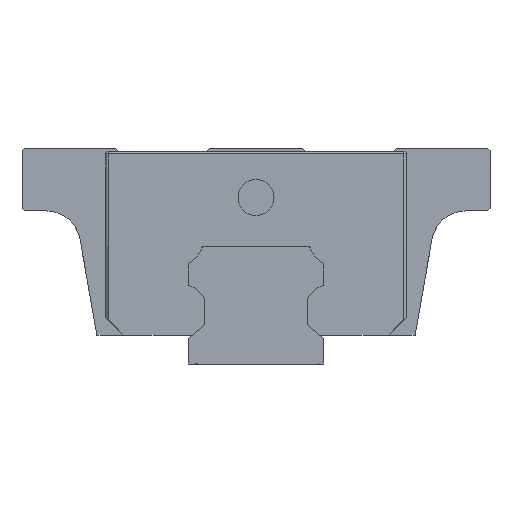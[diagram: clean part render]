
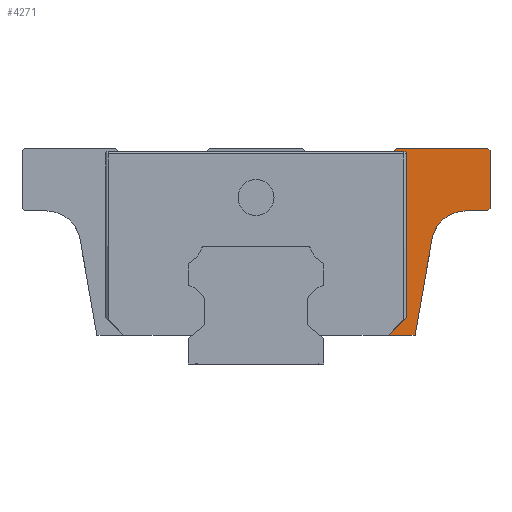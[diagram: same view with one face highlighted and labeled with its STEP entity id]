
A CAD part, left-side view. The second image highlights one B-rep face of the part: STEP entity #4271.
In plain terms, the highlighted planar face has unit normal (-1, 0, 0).
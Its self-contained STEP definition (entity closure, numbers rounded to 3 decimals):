
#23 = LINE ( 'NONE', #2007, #6015 ) ;
#62 = CARTESIAN_POINT ( 'NONE',  ( -11.45, -26., 24. ) ) ;
#106 = LINE ( 'NONE', #1663, #5261 ) ;
#122 = DIRECTION ( 'NONE',  ( 0., 0., 1. ) ) ;
#186 = CARTESIAN_POINT ( 'NONE',  ( -11.45, -26., 23.74 ) ) ;
#200 = VERTEX_POINT ( 'NONE', #186 ) ;
#233 = DIRECTION ( 'NONE',  ( 0., -1., 0. ) ) ;
#315 = CIRCLE ( 'NONE', #4414, 3.75 ) ;
#356 = EDGE_CURVE ( 'NONE', #5013, #2632, #5771, .T. ) ;
#405 = VERTEX_POINT ( 'NONE', #1533 ) ;
#436 = EDGE_CURVE ( 'NONE', #4600, #2224, #1981, .T. ) ;
#464 = CARTESIAN_POINT ( 'NONE',  ( -11.45, -9.264, 0.524 ) ) ;
#570 = LINE ( 'NONE', #4449, #6380 ) ;
#574 = DIRECTION ( 'NONE',  ( 0., 0., 1. ) ) ;
#578 = EDGE_CURVE ( 'NONE', #2354, #5013, #106, .T. ) ;
#606 = PLANE ( 'NONE',  #2950 ) ;
#858 = EDGE_CURVE ( 'NONE', #5218, #5190, #2994, .T. ) ;
#971 = DIRECTION ( 'NONE',  ( 1., 0., 0. ) ) ;
#978 = ORIENTED_EDGE ( 'NONE', *, *, #578, .F. ) ;
#994 = CARTESIAN_POINT ( 'NONE',  ( -11.45, -14.696, 3.2 ) ) ;
#1005 = EDGE_LOOP ( 'NONE', ( #978, #2813, #2591, #1435, #6445, #2911, #4080, #1673, #5570, #5107, #2497, #3629, #2394 ) ) ;
#1119 = VECTOR ( 'NONE', #4114, 1000. ) ;
#1162 = VECTOR ( 'NONE', #4520, 1000. ) ;
#1285 = CARTESIAN_POINT ( 'NONE',  ( -11.45, -23.254, 17. ) ) ;
#1364 = CARTESIAN_POINT ( 'NONE',  ( -11.45, -16.442, 23.335 ) ) ;
#1432 = CARTESIAN_POINT ( 'NONE',  ( -11.45, -25.74, 17. ) ) ;
#1435 = ORIENTED_EDGE ( 'NONE', *, *, #3860, .T. ) ;
#1533 = CARTESIAN_POINT ( 'NONE',  ( -11.45, -25.74, 24. ) ) ;
#1610 = DIRECTION ( 'NONE',  ( 0., 0.707, 0.707 ) ) ;
#1663 = CARTESIAN_POINT ( 'NONE',  ( -11.45, -14.696, 3.2 ) ) ;
#1673 = ORIENTED_EDGE ( 'NONE', *, *, #2476, .T. ) ;
#1736 = AXIS2_PLACEMENT_3D ( 'NONE', #1364, #3361, #4039 ) ;
#1752 = VERTEX_POINT ( 'NONE', #1285 ) ;
#1868 = CARTESIAN_POINT ( 'NONE',  ( -11.45, -17.674, 3.2 ) ) ;
#1928 = VECTOR ( 'NONE', #233, 1000. ) ;
#1981 = LINE ( 'NONE', #1868, #3143 ) ;
#1994 = CARTESIAN_POINT ( 'NONE',  ( -11.45, -15.6, 24. ) ) ;
#2007 = CARTESIAN_POINT ( 'NONE',  ( -11.45, -20.108, 17. ) ) ;
#2015 = VERTEX_POINT ( 'NONE', #4726 ) ;
#2111 = DIRECTION ( 'NONE',  ( 0., -0.707, 0.707 ) ) ;
#2154 = CARTESIAN_POINT ( 'NONE',  ( -11.45, -26., 17. ) ) ;
#2157 = FACE_OUTER_BOUND ( 'NONE', #1005, .T. ) ;
#2224 = VERTEX_POINT ( 'NONE', #5788 ) ;
#2354 = VERTEX_POINT ( 'NONE', #994 ) ;
#2394 = ORIENTED_EDGE ( 'NONE', *, *, #356, .F. ) ;
#2476 = EDGE_CURVE ( 'NONE', #200, #405, #570, .T. ) ;
#2497 = ORIENTED_EDGE ( 'NONE', *, *, #4124, .F. ) ;
#2564 = DIRECTION ( 'NONE',  ( 0., -1., 0. ) ) ;
#2589 = EDGE_CURVE ( 'NONE', #2354, #4600, #3716, .T. ) ;
#2591 = ORIENTED_EDGE ( 'NONE', *, *, #436, .T. ) ;
#2605 = VECTOR ( 'NONE', #2753, 1000. ) ;
#2632 = VERTEX_POINT ( 'NONE', #3193 ) ;
#2753 = DIRECTION ( 'NONE',  ( 0., 0., 1. ) ) ;
#2791 = EDGE_CURVE ( 'NONE', #2015, #2632, #4541, .T. ) ;
#2813 = ORIENTED_EDGE ( 'NONE', *, *, #2589, .T. ) ;
#2911 = ORIENTED_EDGE ( 'NONE', *, *, #858, .T. ) ;
#2950 = AXIS2_PLACEMENT_3D ( 'NONE', #5235, #3611, #574 ) ;
#2994 = LINE ( 'NONE', #464, #4401 ) ;
#3143 = VECTOR ( 'NONE', #6087, 1000. ) ;
#3193 = CARTESIAN_POINT ( 'NONE',  ( -11.45, -16.702, 23.335 ) ) ;
#3197 = CARTESIAN_POINT ( 'NONE',  ( -11.45, -16.702, 5.206 ) ) ;
#3287 = EDGE_CURVE ( 'NONE', #5190, #200, #4612, .T. ) ;
#3361 = DIRECTION ( 'NONE',  ( 1., 0., 0. ) ) ;
#3408 = DIRECTION ( 'NONE',  ( 0., -0.707, 0.707 ) ) ;
#3539 = LINE ( 'NONE', #4040, #1162 ) ;
#3611 = DIRECTION ( 'NONE',  ( -1., 0., 0. ) ) ;
#3629 = ORIENTED_EDGE ( 'NONE', *, *, #2791, .T. ) ;
#3716 = LINE ( 'NONE', #5633, #1928 ) ;
#3852 = EDGE_CURVE ( 'NONE', #1752, #5218, #23, .T. ) ;
#3860 = EDGE_CURVE ( 'NONE', #2224, #1752, #315, .T. ) ;
#3973 = CARTESIAN_POINT ( 'NONE',  ( -11.45, -23.254, 13.25 ) ) ;
#4039 = DIRECTION ( 'NONE',  ( 0., 0., 1. ) ) ;
#4040 = CARTESIAN_POINT ( 'NONE',  ( -11.45, -18.027, 23.595 ) ) ;
#4080 = ORIENTED_EDGE ( 'NONE', *, *, #3287, .T. ) ;
#4114 = DIRECTION ( 'NONE',  ( 0., 1., 0. ) ) ;
#4124 = EDGE_CURVE ( 'NONE', #2015, #4607, #3539, .T. ) ;
#4271 = ADVANCED_FACE ( 'NONE', ( #2157 ), #606, .T. ) ;
#4401 = VECTOR ( 'NONE', #3408, 1000. ) ;
#4414 = AXIS2_PLACEMENT_3D ( 'NONE', #3973, #971, #4549 ) ;
#4449 = CARTESIAN_POINT ( 'NONE',  ( -11.45, -26.564, 23.176 ) ) ;
#4520 = DIRECTION ( 'NONE',  ( 0., 1., 0. ) ) ;
#4541 = CIRCLE ( 'NONE', #1736, 0.26 ) ;
#4549 = DIRECTION ( 'NONE',  ( 0., 0., 1. ) ) ;
#4570 = DIRECTION ( 'NONE',  ( 0., 0.643, -0.766 ) ) ;
#4600 = VERTEX_POINT ( 'NONE', #5390 ) ;
#4607 = VERTEX_POINT ( 'NONE', #5931 ) ;
#4612 = LINE ( 'NONE', #2154, #5403 ) ;
#4647 = EDGE_CURVE ( 'NONE', #405, #6168, #5047, .T. ) ;
#4726 = CARTESIAN_POINT ( 'NONE',  ( -11.45, -16.442, 23.595 ) ) ;
#4852 = CARTESIAN_POINT ( 'NONE',  ( -11.45, -26., 17.26 ) ) ;
#4866 = CARTESIAN_POINT ( 'NONE',  ( -11.45, -15.6, 24. ) ) ;
#5013 = VERTEX_POINT ( 'NONE', #3197 ) ;
#5047 = LINE ( 'NONE', #62, #1119 ) ;
#5107 = ORIENTED_EDGE ( 'NONE', *, *, #5437, .T. ) ;
#5190 = VERTEX_POINT ( 'NONE', #4852 ) ;
#5218 = VERTEX_POINT ( 'NONE', #1432 ) ;
#5235 = CARTESIAN_POINT ( 'NONE',  ( -11.45, -6.587, 3.2 ) ) ;
#5261 = VECTOR ( 'NONE', #2111, 1000. ) ;
#5370 = CARTESIAN_POINT ( 'NONE',  ( -11.45, -16.702, 5.2 ) ) ;
#5390 = CARTESIAN_POINT ( 'NONE',  ( -11.45, -17.674, 3.2 ) ) ;
#5403 = VECTOR ( 'NONE', #122, 1000. ) ;
#5437 = EDGE_CURVE ( 'NONE', #6168, #4607, #6095, .T. ) ;
#5570 = ORIENTED_EDGE ( 'NONE', *, *, #4647, .T. ) ;
#5633 = CARTESIAN_POINT ( 'NONE',  ( -11.45, -8.424, 3.2 ) ) ;
#5771 = LINE ( 'NONE', #5370, #2605 ) ;
#5788 = CARTESIAN_POINT ( 'NONE',  ( -11.45, -19.561, 13.901 ) ) ;
#5931 = CARTESIAN_POINT ( 'NONE',  ( -11.45, -15.26, 23.595 ) ) ;
#6015 = VECTOR ( 'NONE', #2564, 1000. ) ;
#6087 = DIRECTION ( 'NONE',  ( 0., -0.174, 0.985 ) ) ;
#6095 = LINE ( 'NONE', #1994, #6098 ) ;
#6098 = VECTOR ( 'NONE', #4570, 1000. ) ;
#6168 = VERTEX_POINT ( 'NONE', #4866 ) ;
#6380 = VECTOR ( 'NONE', #1610, 1000. ) ;
#6445 = ORIENTED_EDGE ( 'NONE', *, *, #3852, .T. ) ;
